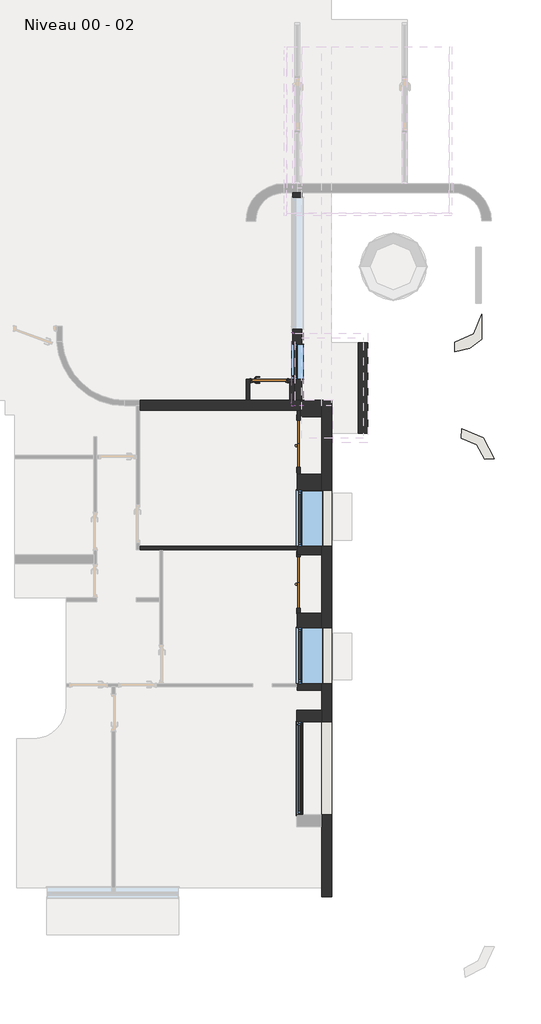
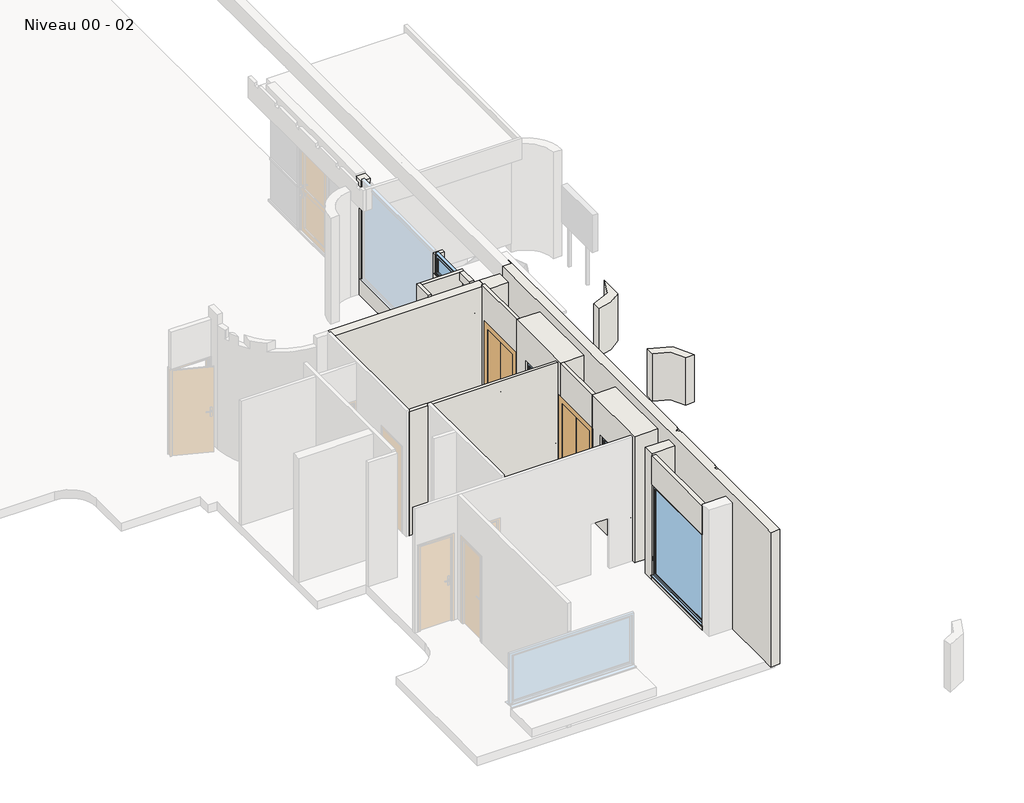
# One storey, part 2 of 6: 17 walls, 5 windows, 3 doors.
"""IFC4 building model written with IfcOpenShell, lengths in millimetres."""

from ifc_helpers import new_model, si_unit, point, frame, frame_2d, origin, place, context, project, spatial, polyline, circle_curve, trimmed, segment, composite_curve, outline, extrude, faceted_brep, transform, mapped, element, save
from ifc_brep_helpers import plane_surface, cylinder_surface, revolved_surface, advanced_brep
from components import door_0c80fb6a, door_98363a51, door_d65dadfb, window_120_x_125cm_d7c04d48, window_156_x_50cm_3dce97cc, window_200_x_220cm_37bbfe6a, window_75_x_180cm_aebe7c0e

model = new_model("IFC4")

# Units and contexts
model_context = context("Model", 3, world=origin())
ifc_project = project(units=[si_unit("LENGTHUNIT", "METRE", prefix="MILLI")], contexts=[model_context])

# Site, building, storey
site = spatial("IfcSite", under=ifc_project)
building = spatial("IfcBuilding", under=site)
storey = spatial("IfcBuildingStorey", under=building, Name="Niveau 00 - 02", Elevation=893.3082742)

# Doors
placement = place(None, origin())
door_shape = door_0c80fb6a(model_context)
element("IfcDoor", 1, ObjectType="Placard pliante : Placard pliante 100", at=placement, inside=storey, context=model_context, shape_type="MappedRepresentation", body=[
    mapped(door_shape, transform((2352.4682686, -11280.0184941, 893.3082742), x_axis=(0.0, -1.0, 0.0), y_axis=(1.0, 0.0, 0.0), z_axis=(0.0, 0.0, 1.0))),
])
door_2_shape = door_98363a51(model_context)
element("IfcDoor", 2, ObjectType="Placard pliante : Placard pliante 110", at=placement, inside=storey, context=model_context, shape_type="MappedRepresentation", body=[
    mapped(door_2_shape, transform((2352.4682686, -14258.8474044, 893.3082742), x_axis=(0.0, -1.0, 0.0), y_axis=(1.0, 0.0, 0.0), z_axis=(0.0, 0.0, 1.0))),
])
door_3_shape = door_d65dadfb(model_context)
element("IfcDoor", 3, ObjectType="@_Int. Simple : @_PP (0.73m x 2.04m)", at=placement, inside=storey, context=model_context, shape_type="MappedRepresentation", body=[
    mapped(door_3_shape, transform((1757.8283813, -9931.6335405, 893.3082742), x_axis=(1.0, 0.0, 0.0), y_axis=(0.0, 1.0, 0.0), z_axis=(0.0, 0.0, 1.0))),
])

# Walls
element("IfcWall", 4, ObjectType="Mur EXE 200- Hach", at=placement, inside=storey, context=model_context, shape_type="AdvancedBrep", body=[
    advanced_brep(
    [(6284.4653664, -8504.5791969, 1394.2517757), (5696.574774, -9104.4569856, 1394.2517757), (5698.4482838, -9304.4569856, 1394.2517757), (6284.4653664, -9033.7294588, 1394.2517757), (5696.574774, -9104.4569856, 258.5326836), (6284.4653664, -8504.5791969, 258.5326836), (6284.4653664, -9033.7294588, 258.5326836), (5698.4482838, -9304.4569856, 258.5326836), (5696.574774, -9104.4569856, 1349.0273663), (5698.4482838, -9304.4569856, 1349.0273663), (6284.4653664, -9033.7294588, 1349.0273663)],
    [
        (0, 1, circle_curve(frame((5684.4653671, -8504.5791969, 1394.2517757), z_axis=(0.0, 0.0, -1.0), x_axis=(1.0, 0.0, 0.0)), 599.9999993)),
        (1, 2),
        (2, 3, circle_curve(frame((5684.4653671, -8504.5791969, 1394.2517757), z_axis=(0.0, 0.0, 1.0), x_axis=(1.0, 0.0, 0.0)), 799.9999993)),
        (3, 0),
        (4, 5, circle_curve(frame((5684.4653671, -8504.5791969, 258.5326836), z_axis=(0.0, 0.0, 1.0), x_axis=(1.0, 0.0, 0.0)), 599.9999993)),
        (5, 6),
        (6, 7, circle_curve(frame((5684.4653671, -8504.5791969, 258.5326836), z_axis=(0.0, 0.0, -1.0), x_axis=(1.0, 0.0, 0.0)), 799.9999993)),
        (7, 4),
        (0, 5),
        (4, 8),
        (8, 1),
        (2, 9),
        (9, 7),
        (6, 10),
        (10, 3),
    ],
    [
        plane_surface(frame((6284.4653664, -8504.5791969, 1394.2517757), z_axis=(0.0, 0.0, 1.0), x_axis=(0.0, -1.0, 0.0))),
        plane_surface(frame((6284.4653664, -8504.5791969, 258.5326836), z_axis=(0.0, 0.0, -1.0), x_axis=(0.0, 1.0, 0.0))),
        revolved_surface(polyline([(6284.4653664, -8504.5791969, 258.5326836), (6284.4653664, -8504.5791969, 1394.2517757)]), (5684.4653671, -8504.5791969, 258.5326836), (0.0, 0.0, -1.0)),
        cylinder_surface(frame((5684.4653671, -8504.5791969, 258.5326836), z_axis=(0.0, 0.0, 1.0), x_axis=(1.0, 0.0, 0.0)), 799.9999993),
        plane_surface(frame((6284.4653664, -8527.2577579, 213.3082742), z_axis=(1.0, 0.0, 0.0), x_axis=(0.0, -1.0, 0.0))),
        plane_surface(frame((5696.574774, -9104.4569856, 893.3082742), z_axis=(-0.9999561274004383, -0.009367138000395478, 0.0), x_axis=(0.009367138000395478, -0.9999561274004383, 0.0))),
    ],
    [
        (0, [[1, 2, 3, 4]]),
        (1, [[5, 6, 7, 8]]),
        (2, [[-1, 9, -5, 10, 11]]),
        (3, [[-3, 12, 13, -7, 14, 15]]),
        (4, [[-4, -15, -14, -6, -9]]),
        (5, [[-2, -11, -10, -8, -13, -12]]),
    ],
),
])
element("IfcWall", 5, ObjectType="Mur EXE 200- Hach", at=placement, inside=storey, context=model_context, shape_type="SweptSolid", body=[
    extrude(outline(composite_curve([segment(polyline([(6544.2383271, -11602.541515), (6344.2383271, -11616.7908534)]), True, "CONTINUOUS"), segment(trimmed(circle_curve(frame_2d((5809.05904, -11700.0724652)), 541.6204356), [point((6344.2383271, -11616.7908534))], [point((5842.6775715, -11159.4963923))], True, "CARTESIAN"), True, "CONTINUOUS"), segment(polyline([(5842.6775715, -11159.4963923), (5848.4030451, -10959.4963923)]), True, "CONTINUOUS"), segment(trimmed(circle_curve(frame_2d((5809.05904, -11700.0724652)), 741.6204356), [point((5848.4030451, -10959.4963923))], [point((6544.2383271, -11602.541515))], False, "CARTESIAN"), True, "CONTINUOUS")], self_intersect=False)), frame((0.0, 0.0, 258.5326836), z_axis=(0.0, 0.0, 1.0), x_axis=(1.0, 0.0, 0.0)), (0.0, 0.0, 1.0), 1135.7190921),
])
element("IfcWall", 6, ObjectType="@_Générique - Int. 70 mm", at=placement, inside=storey, context=model_context, shape_type="Brep", body=[
    faceted_brep([(2317.4682686, -13482.9158895, 893.3082742), (-1057.6000149, -13482.9158895, 893.3082742), (-1057.6000149, -13482.9158895, 3871.8727639), (2317.4682686, -13482.9158895, 3871.8727639), (2317.4682686, -13482.9158895, 3143.3082742), (2317.4682686, -13482.9158895, 1893.3082742), (2317.4682686, -13552.9158895, 893.3082742), (2317.4682686, -13552.9158895, 3871.8727639), (-1057.6000149, -13552.9158895, 3871.8727639), (-1057.6000149, -13552.9158895, 893.3082742), (-632.6697111, -13552.9158895, 893.3082742), (-562.6697111, -13552.9158895, 893.3082742)], [[[0, 1, 2, 3, 4, 5]], [[6, 7, 8, 9, 10, 11]], [[1, 0, 6, 11, 10, 9]], [[2, 1, 9, 8]], [[3, 2, 8, 7]], [[0, 5, 4, 3, 7, 6]]]),
])
element("IfcWall", 7, ObjectType="Mur EXE 530- Hach 2 faces", at=placement, inside=storey, context=model_context, shape_type="Brep", body=[
    faceted_brep([(2847.4682686, -13665.2220011, 893.3082742), (2847.4682686, -11936.6335406, 893.3082742), (2847.4682686, -11936.6335406, 3921.8727639), (2847.4682686, -13665.2220011, 3921.8727639), (2847.4682686, -13482.9158895, 1893.3082742), (2847.4682686, -13482.9158895, 3143.3082742), (2847.4682686, -12282.9158895, 3143.3082742), (2847.4682686, -12282.9158895, 1893.3082742), (2317.4682686, -11936.6335406, 893.3082742), (2317.4682686, -13482.9158895, 893.3082742), (2317.4682686, -13552.9158895, 893.3082742), (2317.4682686, -13665.2220011, 893.3082742), (2317.4682686, -13665.2220011, 3921.8727639), (2317.4682686, -11936.6335406, 3921.8727639), (2317.4682686, -13482.9158895, 3143.3082742), (2317.4682686, -13482.9158895, 1893.3082742), (2317.4682686, -12282.9158895, 1893.3082742), (2317.4682686, -12282.9158895, 3143.3082742), (2387.4682686, -11936.6335406, 893.3082742), (2387.4682686, -11936.6335406, 3921.8727639)], [[[0, 1, 2, 3], [4, 5, 6, 7]], [[8, 9, 10, 11, 12, 13], [14, 15, 16, 17]], [[1, 0, 11, 10, 9, 8, 18]], [[2, 1, 18, 8, 13, 19]], [[3, 2, 19, 13, 12]], [[0, 3, 12, 11]], [[4, 15, 14, 5]], [[5, 14, 17, 6]], [[6, 17, 16, 7]], [[15, 4, 7, 16]]]),
])
element("IfcWall", 8, ObjectType="Mur EXE 530- Hach 2 faces", at=placement, inside=storey, context=model_context, shape_type="Brep", body=[
    faceted_brep([(2847.4682686, -16573.1651039, 893.3082742), (2847.4682686, -14915.2220011, 893.3082742), (2847.4682686, -14915.2220011, 3921.8727639), (2847.4682686, -16573.1651039, 3921.8727639), (2847.4682686, -16428.8474044, 1893.3082742), (2847.4682686, -16428.8474044, 3143.3082742), (2847.4682686, -15228.8474044, 3143.3082742), (2847.4682686, -15228.8474044, 1893.3082742), (2317.4682686, -14915.2220011, 893.3082742), (2317.4682686, -16428.8474044, 893.3082742), (2317.4682686, -16498.8474044, 893.3082742), (2317.4682686, -16573.1651039, 893.3082742), (2317.4682686, -16573.1651039, 3921.8727639), (2317.4682686, -14915.2220011, 3921.8727639), (2317.4682686, -16428.8474044, 3143.3082742), (2317.4682686, -16428.8474044, 1893.3082742), (2317.4682686, -15228.8474044, 1893.3082742), (2317.4682686, -15228.8474044, 3143.3082742), (2387.4682686, -14915.2220011, 893.3082742), (2387.4682686, -14915.2220011, 3921.8727639)], [[[0, 1, 2, 3], [4, 5, 6, 7]], [[8, 9, 10, 11, 12, 13], [14, 15, 16, 17]], [[1, 0, 11, 10, 9, 8, 18]], [[2, 1, 18, 8, 13, 19]], [[3, 2, 19, 13, 12]], [[0, 3, 12, 11]], [[4, 15, 14, 5]], [[5, 14, 17, 6]], [[6, 17, 16, 7]], [[15, 4, 7, 16]]]),
])
element("IfcWall", 9, ObjectType="@_Générique - Int. 70 mm", at=placement, inside=storey, context=model_context, shape_type="SweptSolid", body=[
    extrude(outline(polyline([(-13665.2220011, 3921.8727639), (-13665.2220011, 893.3082742), (-13708.8474044, 893.3082742), (-13708.8474044, 2993.3082742), (-14808.8474044, 2993.3082742), (-14808.8474044, 893.3082742), (-14915.2220011, 893.3082742), (-14915.2220011, 3921.8727639), (-13665.2220011, 3921.8727639)])), frame((2317.4682686, 0.0, 0.0), z_axis=(1.0, 0.0, 0.0), x_axis=(0.0, 1.0, 0.0)), (0.0, 0.0, 1.0), 70.0),
])
element("IfcWall", 10, ObjectType="@_Générique - Int. 70 mm", at=placement, inside=storey, context=model_context, shape_type="Brep", body=[
    faceted_brep([(2387.4682686, -10566.6335399, 893.3082742), (2387.4682686, -10566.6335399, 3871.8727639), (2387.4682686, -10566.6335399, 3921.8727639), (2387.4682686, -11936.6335406, 3921.8727639), (2387.4682686, -11936.6335406, 893.3082742), (2387.4682686, -11780.0184941, 893.3082742), (2387.4682686, -11780.0184941, 2993.3082742), (2387.4682686, -10780.0184941, 2993.3082742), (2387.4682686, -10780.0184941, 893.3082742), (2387.4682686, -10696.6335398, 893.3082742), (2317.4682686, -10566.6335399, 3921.8727639), (2317.4682686, -10566.6335399, 893.3082742), (2317.4682686, -10780.0184941, 893.3082742), (2317.4682686, -10780.0184941, 2993.3082742), (2317.4682686, -11780.0184941, 2993.3082742), (2317.4682686, -11780.0184941, 893.3082742), (2317.4682686, -11936.6335406, 893.3082742), (2317.4682686, -11936.6335406, 3921.8727639), (2382.3999851, -10566.6335399, 893.3082742)], [[[0, 1, 2, 3, 4, 5, 6, 7, 8, 9]], [[10, 11, 12, 13, 14, 15, 16, 17]], [[4, 16, 15, 5]], [[11, 18, 0, 9, 8, 12]], [[2, 1, 0, 18, 11, 10]], [[3, 2, 10, 17]], [[4, 3, 17, 16]], [[14, 6, 5, 15]], [[7, 13, 12, 8]], [[13, 7, 6, 14]]]),
])
element("IfcWall", 11, ObjectType="Mur EXE 200- Hach 2 faces", at=placement, inside=storey, context=model_context, shape_type="Brep", body=[
    faceted_brep([(2420.3283813, -10346.6335399, 893.3082742), (2420.3283813, -5899.6253835, 893.3082742), (2420.3283813, -5899.6253835, 3443.3082742), (2420.3283813, -5799.6253835, 3443.3082742), (2420.3283813, -5799.6253835, 3673.3082742), (2420.3283813, -5996.6335398, 3673.3082742), (2420.3283813, -5996.6335398, 1318.3082742), (2420.3283813, -8826.6335398, 1318.3082742), (2420.3283813, -8826.6335398, 3673.3082742), (2420.3283813, -8906.6335398, 3673.3082742), (2420.3283813, -8906.6335398, 3218.5326836), (2420.3283813, -10346.6335399, 3218.5326836), (2420.3283813, -9896.6335405, 1343.3082742), (2420.3283813, -9896.6335405, 3143.3082742), (2420.3283813, -9146.6335405, 3143.3082742), (2420.3283813, -9146.6335405, 1343.3082742), (2220.3283813, -8826.6335398, 3673.3082742), (2220.3283813, -8826.6335398, 1318.3082742), (2220.3283813, -5996.6335398, 1318.3082742), (2220.3283813, -5996.6335398, 3673.3082742), (2220.3283813, -5799.6253835, 3673.3082742), (2220.3283813, -5799.6253835, 3443.3082742), (2220.3283813, -5899.6253835, 3443.3082742), (2220.3283813, -5899.6253835, 893.3082742), (2220.3283813, -9966.6335405, 893.3082742), (2220.3283813, -9966.6335405, 3218.5326836), (2220.3283813, -8906.6335398, 3218.5326836), (2220.3283813, -8906.6335398, 3673.3082742), (2220.3283813, -9896.6335405, 3143.3082742), (2220.3283813, -9896.6335405, 1343.3082742), (2220.3283813, -9146.6335405, 1343.3082742), (2220.3283813, -9146.6335405, 3143.3082742), (2382.3999851, -10346.6335399, 893.3082742), (2257.4682705, -10346.6335399, 893.3082742), (2257.4682705, -9966.6335405, 893.3082742), (2320.3283813, -5899.6253835, 893.3082742), (2257.4682705, -9966.6335405, 3218.5326836), (2257.4682705, -10346.6335399, 3218.5326836), (2382.3999851, -10346.6335399, 3218.5326836)], [[[0, 1, 2, 3, 4, 5, 6, 7, 8, 9, 10, 11], [12, 13, 14, 15]], [[16, 17, 18, 19, 20, 21, 22, 23, 24, 25, 26, 27], [28, 29, 30, 31]], [[1, 0, 32, 33, 34, 24, 23, 35]], [[8, 7, 17, 16]], [[6, 5, 19, 18]], [[17, 7, 6, 18]], [[26, 10, 9, 27]], [[10, 26, 25, 36, 37, 38, 11]], [[12, 29, 28, 13]], [[13, 28, 31, 14]], [[30, 15, 14, 31]], [[29, 12, 15, 30]], [[4, 20, 19, 5]], [[27, 9, 8, 16]], [[20, 4, 3, 21]], [[21, 3, 2, 22]], [[1, 35, 23, 22, 2]], [[0, 11, 38, 37, 33, 32]], [[36, 34, 33, 37]], [[34, 36, 25, 24]]]),
])
element("IfcWall", 12, ObjectType="@_Générique - Int. 70 mm", at=placement, inside=storey, context=model_context, shape_type="Brep", body=[
    faceted_brep([(1300.3702255, -9896.6335405, 3921.8727639), (2257.4682705, -9896.6335405, 3921.8727639), (2257.4682705, -9896.6335405, 3718.5326836), (2220.3283813, -9896.6335405, 3718.5326836), (2220.3283813, -9896.6335405, 3218.5326836), (2257.4682705, -9896.6335405, 3218.5326836), (2257.4682705, -9896.6335405, 893.3082742), (2122.8283813, -9896.6335405, 893.3082742), (2122.8283813, -9896.6335405, 2968.3082742), (1322.8283813, -9896.6335405, 2968.3082742), (1322.8283813, -9896.6335405, 893.3082742), (1300.3702255, -9896.6335405, 893.3082742), (2257.4682705, -9966.6335405, 3921.8727639), (2157.4682705, -9966.6335405, 3921.8727639), (1300.3702255, -9966.6335405, 3921.8727639), (1300.3702255, -9966.6335405, 893.3082742), (1322.8283813, -9966.6335405, 893.3082742), (1322.8283813, -9966.6335405, 2968.3082742), (2122.8283813, -9966.6335405, 2968.3082742), (2122.8283813, -9966.6335405, 893.3082742), (2157.4682705, -9966.6335405, 893.3082742), (2257.4682705, -9966.6335405, 893.3082742), (2257.4682705, -9966.6335405, 3218.5326836), (2220.3283813, -9966.6335405, 3218.5326836), (2220.3283813, -9966.6335405, 3718.5326836), (2257.4682705, -9966.6335405, 3718.5326836)], [[[0, 1, 2, 3, 4, 5, 6, 7, 8, 9, 10, 11]], [[12, 13, 14, 15, 16, 17, 18, 19, 20, 21, 22, 23, 24, 25]], [[7, 6, 21, 20, 19]], [[10, 16, 15, 11]], [[1, 0, 14, 13, 12]], [[8, 7, 19, 18]], [[10, 9, 17, 16]], [[9, 8, 18, 17]], [[0, 11, 15, 14]], [[1, 12, 25, 2]], [[21, 6, 5, 22]], [[23, 4, 3, 24]], [[24, 3, 2, 25]], [[4, 23, 22, 5]]]),
])
element("IfcWall", 13, ObjectType="@_Générique - Int. 70 mm", at=placement, inside=storey, context=model_context, shape_type="Brep", body=[
    faceted_brep([(1230.3702255, -9896.6335405, 893.3082742), (1230.3702255, -10346.6335399, 893.3082742), (1230.3702255, -10346.6335399, 3921.8727639), (1230.3702255, -9896.6335405, 3921.8727639), (1300.3702255, -9896.6335405, 893.3082742), (1300.3702255, -9896.6335405, 3921.8727639), (1300.3702255, -9966.6335405, 3921.8727639), (1300.3702255, -10346.6335399, 3921.8727639), (1300.3702255, -10346.6335399, 893.3082742), (1300.3702255, -9966.6335405, 893.3082742)], [[[0, 1, 2, 3]], [[4, 5, 6, 7, 8, 9]], [[1, 0, 4, 9, 8]], [[3, 2, 7, 6, 5]], [[2, 1, 8, 7]], [[0, 3, 5, 4]]]),
])
element("IfcWall", 14, ObjectType="@_Générique - Int. 100 mm", at=placement, inside=storey, context=model_context, shape_type="SweptSolid", body=[
    extrude(outline(polyline([(2412.3999851, -17245.4746569), (2412.3999851, -19245.4746569), (2312.3999851, -19245.4746569), (2312.3999851, -17245.4746569), (2412.3999851, -17245.4746569)])), frame((0.0, 0.0, 893.3082742), z_axis=(0.0, 0.0, 1.0), x_axis=(1.0, 0.0, 0.0)), (0.0, 0.0, 1.0), 100.0),
    extrude(outline(polyline([(2412.3999851, -17245.4746569), (2412.3999851, -19245.4746569), (2312.3999851, -19245.4746569), (2312.3999851, -17245.4746569), (2412.3999851, -17245.4746569)])), frame((0.0, 0.0, 3193.3082742), z_axis=(0.0, 0.0, 1.0), x_axis=(1.0, 0.0, 0.0)), (0.0, 0.0, 1.0), 678.5644896),
])
element("IfcWall", 15, ObjectType="Mur EXE 5350- Hach 2 faces", at=placement, inside=storey, context=model_context, shape_type="Brep", body=[
    faceted_brep([(2847.3999851, -17245.4746569, 893.3082742), (2847.3999851, -16995.4746569, 893.3082742), (2847.3999851, -16995.4746569, 3921.8727639), (2847.3999851, -17245.4746569, 3921.8727639), (2847.3999851, -17245.4746569, 3193.3082742), (2847.3999851, -17245.4746569, 993.3082742), (2312.3999851, -17245.4746569, 893.3082742), (2312.3999851, -17245.4746569, 993.3082742), (2312.3999851, -17245.4746569, 3193.3082742), (2312.3999851, -17245.4746569, 3871.8727639), (2312.3999851, -17245.4746569, 3921.8727639), (2312.3999851, -16995.4746569, 3921.8727639), (2312.3999851, -16995.4746569, 893.3082742), (2412.3999851, -17245.4746569, 893.3082742)], [[[0, 1, 2, 3, 4, 5]], [[6, 7, 8, 9, 10, 11, 12]], [[1, 0, 13, 6, 12]], [[2, 1, 12, 11]], [[3, 2, 11, 10]], [[0, 5, 4, 3, 10, 9, 8, 7, 6, 13]]]),
])
element("IfcWall", 16, ObjectType="@_Générique - Int. 100 mm", at=placement, inside=storey, context=model_context, shape_type="Brep", body=[
    faceted_brep([(2157.4682705, -9966.6335405, 893.3082742), (2157.4682705, -10346.6335399, 893.3082742), (2157.4682705, -10346.6335399, 3218.5326836), (2157.4682705, -9966.6335405, 3218.5326836), (2257.4682705, -10346.6335399, 893.3082742), (2257.4682705, -9966.6335405, 893.3082742), (2257.4682705, -9966.6335405, 3218.5326836), (2257.4682705, -10346.6335399, 3218.5326836), (2220.3283813, -9966.6335405, 893.3082742), (2220.3283813, -10346.6335399, 3218.5326836), (2220.3283813, -9966.6335405, 3218.5326836)], [[[0, 1, 2, 3]], [[4, 5, 6, 7]], [[1, 0, 8, 5, 4]], [[1, 4, 7, 9, 2]], [[5, 8, 0, 3, 10, 6]], [[3, 2, 9, 7, 6, 10]]]),
    faceted_brep([(2157.4682705, -10346.6335399, 3921.8727639), (2157.4682705, -9966.6335405, 3921.8727639), (2157.4682705, -9966.6335405, 3718.5326836), (2157.4682705, -10346.6335399, 3718.5326836), (2257.4682705, -9966.6335405, 3921.8727639), (2257.4682705, -10346.6335399, 3921.8727639), (2257.4682705, -10346.6335399, 3718.5326836), (2257.4682705, -9966.6335405, 3718.5326836), (2220.3283813, -10346.6335399, 3718.5326836), (2220.3283813, -9966.6335405, 3718.5326836)], [[[0, 1, 2, 3]], [[4, 5, 6, 7]], [[1, 0, 5, 4]], [[5, 0, 3, 8, 6]], [[1, 4, 7, 9, 2]], [[3, 2, 9, 7, 6, 8]]]),
])
element("IfcWall", 17, ObjectType="Ext. Voile BA 210", at=placement, inside=storey, context=model_context, shape_type="AdvancedBrep", body=[
    advanced_brep(
    [(3057.4682686, -21006.2530701, 893.3082742), (3057.4682686, -10346.6335398, 893.3082742), (3057.4682686, -10346.6335398, 3673.0838649), (3057.4682686, -10346.6335398, 4121.8727639), (3057.4682686, -16966.372937, 4121.8727639), (3057.4682686, -16966.372937, 4113.3082742), (3057.4682686, -17166.372937, 4113.3082742), (3057.4682686, -17166.372937, 4121.8727639), (3057.4682686, -18466.372937, 4121.8727639), (3057.4682686, -18466.372937, 4113.3082742), (3057.4682686, -18666.372937, 4113.3082742), (3057.4682686, -18666.372937, 4121.8727639), (3057.4682686, -21006.2530701, 4121.8727639), (3057.4682686, -21006.2530701, 3673.0838649), (3057.4682686, -16428.8474044, 1893.3082742), (3057.4682686, -16428.8474044, 3143.3082742), (3057.4682686, -15229.0512733, 3143.3082742), (3057.4682686, -15228.8474044, 3143.3082742), (3057.4682686, -15228.8474044, 1893.3082742), (3057.4682686, -15229.0512733, 1893.3082742), (3057.4682686, -13482.9158895, 1893.3082742), (3057.4682686, -13482.9158895, 3143.3082742), (3057.4682686, -12282.9158895, 3143.3082742), (3057.4682686, -12282.9158895, 1893.3082742), (3057.4682686, -17245.4746569, 3193.3082742), (3057.4682686, -17245.4746569, 993.3082742), (3057.4682686, -19245.4746569, 993.3082742), (3057.4682686, -19245.4746569, 3193.3082742), (2847.4682686, -10346.6335398, 893.3082742), (2847.4682686, -10696.6335398, 893.3082742), (2847.4682686, -11936.6335406, 893.3082742), (2847.4682686, -13665.2220011, 893.3082742), (2847.4682686, -14915.2220011, 893.3082742), (2847.4682686, -16573.1651039, 893.3082742), (2847.4682686, -16995.4746569, 893.3082742), (2847.4682686, -17245.4746569, 893.3082742), (2847.4682686, -19245.4746569, 893.3082742), (2847.4682686, -19495.4746569, 893.3082742), (2847.4682686, -21006.2530701, 893.3082742), (2847.4682686, -21006.2530701, 4121.8727639), (2847.4682686, -20806.2530701, 4121.8727639), (2847.4682686, -10466.6335398, 4121.8727639), (2847.4682686, -10466.6335398, 3718.3082742), (2847.4682686, -10346.6335398, 3718.3082742), (2847.4682686, -16428.8474044, 3143.3082742), (2847.4682686, -16428.8474044, 1893.3082742), (2847.4682686, -15228.8474044, 1893.3082742), (2847.4682686, -15228.8474044, 3143.3082742), (2847.4682686, -13482.9158895, 3143.3082742), (2847.4682686, -13482.9158895, 1893.3082742), (2847.4682686, -12282.9158895, 1893.3082742), (2847.4682686, -12282.9158895, 3143.3082742), (2847.4682686, -17245.4746569, 993.3082742), (2847.4682686, -17245.4746569, 3193.3082742), (2847.4682686, -19245.4746569, 3193.3082742), (2847.4682686, -19245.4746569, 993.3082742), (2994.7645905, -17071.372937, 4113.3082742), (3002.2645905, -17078.872937, 4113.3082742), (3002.2645905, -17096.372937, 4113.3082742), (3022.4682686, -17096.372937, 4113.3082742), (3047.4682686, -17121.372937, 4113.3082742), (3047.4682686, -17166.372937, 4113.3082742), (3047.4682686, -16966.372937, 4113.3082742), (3047.4682686, -17011.372937, 4113.3082742), (3022.4682686, -17036.372937, 4113.3082742), (3002.2645905, -17036.372937, 4113.3082742), (3002.2645905, -17053.872937, 4113.3082742), (2994.7645905, -17061.372937, 4113.3082742), (2984.1139183, -17061.372937, 4113.3082742), (2984.1139183, -17071.372937, 4113.3082742), (2994.7645905, -17071.372937, 4121.8727639), (3002.2645905, -17078.872937, 4121.8727639), (3002.2645905, -17096.372937, 4121.8727639), (3022.4682686, -17096.372937, 4121.8727639), (3047.4682686, -17121.372937, 4121.8727639), (3047.4682686, -17166.372937, 4121.8727639), (3047.4682686, -16966.372937, 4121.8727639), (3047.4682686, -17011.372937, 4121.8727639), (3022.4682686, -17036.372937, 4121.8727639), (3002.2645905, -17036.372937, 4121.8727639), (3002.2645905, -17053.872937, 4121.8727639), (2994.7645905, -17061.372937, 4121.8727639), (2984.1139183, -17061.372937, 4121.8727639), (2984.1139183, -17071.372937, 4121.8727639), (2994.7645905, -18571.372937, 4113.3082742), (3002.2645905, -18578.872937, 4113.3082742), (3002.2645905, -18596.372937, 4113.3082742), (3022.4682686, -18596.372937, 4113.3082742), (3047.4682686, -18621.372937, 4113.3082742), (3047.4682686, -18666.372937, 4113.3082742), (3047.4682686, -18466.372937, 4113.3082742), (3047.4682686, -18511.372937, 4113.3082742), (3022.4682686, -18536.372937, 4113.3082742), (3002.2645905, -18536.372937, 4113.3082742), (3002.2645905, -18553.872937, 4113.3082742), (2994.7645905, -18561.372937, 4113.3082742), (2984.1139183, -18561.372937, 4113.3082742), (2984.1139183, -18571.372937, 4113.3082742), (2994.7645905, -18571.372937, 4121.8727639), (3002.2645905, -18578.872937, 4121.8727639), (3002.2645905, -18596.372937, 4121.8727639), (3022.4682686, -18596.372937, 4121.8727639), (3047.4682686, -18621.372937, 4121.8727639), (3047.4682686, -18666.372937, 4121.8727639), (3047.4682686, -18466.372937, 4121.8727639), (3047.4682686, -18511.372937, 4121.8727639), (3022.4682686, -18536.372937, 4121.8727639), (3002.2645905, -18536.372937, 4121.8727639), (3002.2645905, -18553.872937, 4121.8727639), (2994.7645905, -18561.372937, 4121.8727639), (2984.1139183, -18561.372937, 4121.8727639), (2984.1139183, -18571.372937, 4121.8727639), (3047.4682743, -10346.6335398, 3718.3082742), (3047.4682743, -10346.6335398, 4121.8727639), (3047.4682743, -10466.6335398, 3718.3082742), (3047.4682743, -10466.6335398, 4121.8727639)],
    [
        (0, 1),
        (1, 2),
        (2, 3),
        (3, 4),
        (4, 5),
        (5, 6),
        (6, 7),
        (7, 8),
        (8, 9),
        (9, 10),
        (10, 11),
        (11, 12),
        (12, 13),
        (13, 0),
        (14, 15),
        (15, 16),
        (16, 17),
        (17, 18),
        (18, 19),
        (19, 14),
        (20, 21),
        (21, 22),
        (22, 23),
        (23, 20),
        (24, 25),
        (25, 26),
        (26, 27),
        (27, 24),
        (28, 29),
        (29, 30),
        (30, 31),
        (31, 32),
        (32, 33),
        (33, 34),
        (34, 35),
        (35, 36),
        (36, 37),
        (37, 38),
        (38, 39),
        (39, 40),
        (40, 41),
        (41, 42),
        (42, 43),
        (43, 28),
        (44, 45),
        (45, 46),
        (46, 47),
        (47, 44),
        (48, 49),
        (49, 50),
        (50, 51),
        (51, 48),
        (52, 53),
        (53, 54),
        (54, 55),
        (55, 52),
        (56, 57, circle_curve(frame((2994.7645905, -17078.872937, 4113.3082742), z_axis=(0.0, 0.0, -1.0), x_axis=(0.0, 1.0, 0.0)), 7.5)),
        (57, 58),
        (58, 59),
        (59, 60, circle_curve(frame((3022.4682686, -17121.372937, 4113.3082742), z_axis=(0.0, 0.0, -1.0), x_axis=(0.0, 1.0, 0.0)), 25.0)),
        (60, 61),
        (61, 6),
        (5, 62),
        (62, 63),
        (63, 64, circle_curve(frame((3022.4682686, -17011.372937, 4113.3082742), z_axis=(0.0, 0.0, -1.0), x_axis=(0.0, 1.0, 0.0)), 25.0)),
        (64, 65),
        (65, 66),
        (66, 67, circle_curve(frame((2994.7645905, -17053.872937, 4113.3082742), z_axis=(0.0, 0.0, -1.0), x_axis=(0.0, 1.0, 0.0)), 7.5)),
        (67, 68),
        (68, 69),
        (69, 56),
        (56, 70),
        (70, 71, circle_curve(frame((2994.7645905, -17078.872937, 4121.8727639), z_axis=(0.0, 0.0, -1.0), x_axis=(0.0, 1.0, 0.0)), 7.5)),
        (71, 57),
        (71, 72),
        (72, 58),
        (72, 73),
        (73, 59),
        (73, 74, circle_curve(frame((3022.4682686, -17121.372937, 4121.8727639), z_axis=(0.0, 0.0, -1.0), x_axis=(0.0, 1.0, 0.0)), 25.0)),
        (74, 60),
        (74, 75),
        (75, 61),
        (75, 7),
        (4, 76),
        (76, 62),
        (76, 77),
        (77, 63),
        (77, 78, circle_curve(frame((3022.4682686, -17011.372937, 4121.8727639), z_axis=(0.0, 0.0, -1.0), x_axis=(0.0, 1.0, 0.0)), 25.0)),
        (78, 64),
        (78, 79),
        (79, 65),
        (79, 80),
        (80, 66),
        (80, 81, circle_curve(frame((2994.7645905, -17053.872937, 4121.8727639), z_axis=(0.0, 0.0, -1.0), x_axis=(0.0, 1.0, 0.0)), 7.5)),
        (81, 67),
        (81, 82),
        (82, 68),
        (82, 83),
        (83, 69),
        (83, 70),
        (84, 85, circle_curve(frame((2994.7645905, -18578.872937, 4113.3082742), z_axis=(0.0, 0.0, -1.0), x_axis=(0.0, 1.0, 0.0)), 7.5)),
        (85, 86),
        (86, 87),
        (87, 88, circle_curve(frame((3022.4682686, -18621.372937, 4113.3082742), z_axis=(0.0, 0.0, -1.0), x_axis=(0.0, 1.0, 0.0)), 25.0)),
        (88, 89),
        (89, 10),
        (9, 90),
        (90, 91),
        (91, 92, circle_curve(frame((3022.4682686, -18511.372937, 4113.3082742), z_axis=(0.0, 0.0, -1.0), x_axis=(0.0, 1.0, 0.0)), 25.0)),
        (92, 93),
        (93, 94),
        (94, 95, circle_curve(frame((2994.7645905, -18553.872937, 4113.3082742), z_axis=(0.0, 0.0, -1.0), x_axis=(0.0, 1.0, 0.0)), 7.5)),
        (95, 96),
        (96, 97),
        (97, 84),
        (84, 98),
        (98, 99, circle_curve(frame((2994.7645905, -18578.872937, 4121.8727639), z_axis=(0.0, 0.0, -1.0), x_axis=(0.0, 1.0, 0.0)), 7.5)),
        (99, 85),
        (99, 100),
        (100, 86),
        (100, 101),
        (101, 87),
        (101, 102, circle_curve(frame((3022.4682686, -18621.372937, 4121.8727639), z_axis=(0.0, 0.0, -1.0), x_axis=(0.0, 1.0, 0.0)), 25.0)),
        (102, 88),
        (102, 103),
        (103, 89),
        (103, 11),
        (8, 104),
        (104, 90),
        (104, 105),
        (105, 91),
        (105, 106, circle_curve(frame((3022.4682686, -18511.372937, 4121.8727639), z_axis=(0.0, 0.0, -1.0), x_axis=(0.0, 1.0, 0.0)), 25.0)),
        (106, 92),
        (106, 107),
        (107, 93),
        (107, 108),
        (108, 94),
        (108, 109, circle_curve(frame((2994.7645905, -18553.872937, 4121.8727639), z_axis=(0.0, 0.0, -1.0), x_axis=(0.0, 1.0, 0.0)), 7.5)),
        (109, 95),
        (109, 110),
        (110, 96),
        (110, 111),
        (111, 97),
        (111, 98),
        (1, 28),
        (43, 112),
        (112, 113),
        (113, 3),
        (114, 115),
        (115, 113),
        (112, 114),
        (42, 114),
        (41, 115),
        (14, 45),
        (44, 15),
        (47, 17),
        (46, 18),
        (20, 49),
        (48, 21),
        (51, 22),
        (50, 23),
        (0, 38),
        (39, 12),
        (52, 25),
        (24, 53),
        (27, 54),
        (26, 55),
    ],
    [
        plane_surface(frame((3057.4682686, -21006.2530701, 893.3082742), z_axis=(1.0, 0.0, 0.0), x_axis=(0.0, 1.0, 0.0))),
        plane_surface(frame((2847.4682686, -21006.2530701, 893.3082742), z_axis=(-1.0, 0.0, 0.0), x_axis=(0.0, -1.0, 0.0))),
        plane_surface(frame((2994.7645905, -17071.372937, 4113.3082742), z_axis=(0.0, 0.0, 1.0), x_axis=(-1.0, 0.0, 0.0))),
        cylinder_surface(frame((2994.7645905, -17078.872937, 4113.3082742), z_axis=(0.0, 0.0, -1.0), x_axis=(0.0, 1.0, 0.0)), 7.5),
        plane_surface(frame((3002.2645905, -17078.872937, 7363.3082742), z_axis=(1.0, 0.0, 0.0), x_axis=(0.0, 0.0, -1.0))),
        plane_surface(frame((3002.2645905, -17096.372937, 7363.3082742), z_axis=(0.0, 1.0, 0.0), x_axis=(0.0, 0.0, -1.0))),
        cylinder_surface(frame((3022.4682686, -17121.372937, 4113.3082742), z_axis=(0.0, 0.0, -1.0), x_axis=(0.0, 1.0, 0.0)), 25.0),
        plane_surface(frame((3047.4682686, -17121.372937, 7363.3082742), z_axis=(1.0, 0.0, 0.0), x_axis=(0.0, 0.0, -1.0))),
        plane_surface(frame((3047.4682686, -17166.372937, 7363.3082742), z_axis=(0.0, 1.0, 0.0), x_axis=(0.0, 0.0, -1.0))),
        plane_surface(frame((3057.4682686, -16966.372937, 7363.3082742), z_axis=(0.0, -1.0, 0.0), x_axis=(0.0, 0.0, -1.0))),
        plane_surface(frame((3047.4682686, -16966.372937, 7363.3082742), z_axis=(1.0, 0.0, 0.0), x_axis=(0.0, 0.0, -1.0))),
        cylinder_surface(frame((3022.4682686, -17011.372937, 4113.3082742), z_axis=(0.0, 0.0, -1.0), x_axis=(0.0, 1.0, 0.0)), 25.0),
        plane_surface(frame((3022.4682686, -17036.372937, 7363.3082742), z_axis=(0.0, -1.0, 0.0), x_axis=(0.0, 0.0, -1.0))),
        plane_surface(frame((3002.2645905, -17036.372937, 7363.3082742), z_axis=(1.0, 0.0, 0.0), x_axis=(0.0, 0.0, -1.0))),
        cylinder_surface(frame((2994.7645905, -17053.872937, 4113.3082742), z_axis=(0.0, 0.0, -1.0), x_axis=(0.0, 1.0, 0.0)), 7.5),
        plane_surface(frame((2994.7645905, -17061.372937, 7363.3082742), z_axis=(0.0, -1.0, 0.0), x_axis=(0.0, 0.0, -1.0))),
        plane_surface(frame((2984.1139183, -17061.372937, 7363.3082742), z_axis=(1.0, 0.0, 0.0), x_axis=(0.0, 0.0, -1.0))),
        plane_surface(frame((2984.1139183, -17071.372937, 7363.3082742), z_axis=(0.0, 1.0, 0.0), x_axis=(0.0, 0.0, -1.0))),
        plane_surface(frame((2994.7645905, -18571.372937, 4113.3082742), z_axis=(0.0, 0.0, 1.0), x_axis=(-1.0, 0.0, 0.0))),
        cylinder_surface(frame((2994.7645905, -18578.872937, 4113.3082742), z_axis=(0.0, 0.0, -1.0), x_axis=(0.0, 1.0, 0.0)), 7.5),
        plane_surface(frame((3002.2645905, -18578.872937, 7363.3082742), z_axis=(1.0, 0.0, 0.0), x_axis=(0.0, 0.0, -1.0))),
        plane_surface(frame((3002.2645905, -18596.372937, 7363.3082742), z_axis=(0.0, 1.0, 0.0), x_axis=(0.0, 0.0, -1.0))),
        cylinder_surface(frame((3022.4682686, -18621.372937, 4113.3082742), z_axis=(0.0, 0.0, -1.0), x_axis=(0.0, 1.0, 0.0)), 25.0),
        plane_surface(frame((3047.4682686, -18621.372937, 7363.3082742), z_axis=(1.0, 0.0, 0.0), x_axis=(0.0, 0.0, -1.0))),
        plane_surface(frame((3047.4682686, -18666.372937, 7363.3082742), z_axis=(0.0, 1.0, 0.0), x_axis=(0.0, 0.0, -1.0))),
        plane_surface(frame((3057.4682686, -18466.372937, 7363.3082742), z_axis=(0.0, -1.0, 0.0), x_axis=(0.0, 0.0, -1.0))),
        plane_surface(frame((3047.4682686, -18466.372937, 7363.3082742), z_axis=(1.0, 0.0, 0.0), x_axis=(0.0, 0.0, -1.0))),
        cylinder_surface(frame((3022.4682686, -18511.372937, 4113.3082742), z_axis=(0.0, 0.0, -1.0), x_axis=(0.0, 1.0, 0.0)), 25.0),
        plane_surface(frame((3022.4682686, -18536.372937, 7363.3082742), z_axis=(0.0, -1.0, 0.0), x_axis=(0.0, 0.0, -1.0))),
        plane_surface(frame((3002.2645905, -18536.372937, 7363.3082742), z_axis=(1.0, 0.0, 0.0), x_axis=(0.0, 0.0, -1.0))),
        cylinder_surface(frame((2994.7645905, -18553.872937, 4113.3082742), z_axis=(0.0, 0.0, -1.0), x_axis=(0.0, 1.0, 0.0)), 7.5),
        plane_surface(frame((2994.7645905, -18561.372937, 7363.3082742), z_axis=(0.0, -1.0, 0.0), x_axis=(0.0, 0.0, -1.0))),
        plane_surface(frame((2984.1139183, -18561.372937, 7363.3082742), z_axis=(1.0, 0.0, 0.0), x_axis=(0.0, 0.0, -1.0))),
        plane_surface(frame((2984.1139183, -18571.372937, 7363.3082742), z_axis=(0.0, 1.0, 0.0), x_axis=(0.0, 0.0, -1.0))),
        plane_surface(frame((2989.2176979, -10346.6335398, 893.3082742), z_axis=(0.0, 1.0, 0.0), x_axis=(-1.0, 0.0, 0.0))),
        plane_surface(frame((3047.4682745, -1586.0291627, 3718.3082742), z_axis=(-1.0, 1.968526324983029e-11, 0.0), x_axis=(1.968526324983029e-11, 1.0, 0.0))),
        plane_surface(frame((3047.4682743, -10466.6335398, 3718.3082742), z_axis=(0.0, 0.0, 1.0), x_axis=(-1.0, 1.968652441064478e-11, 0.0))),
        plane_surface(frame((3047.4682743, -10466.6335398, 4121.8727639), z_axis=(1.968652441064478e-11, 1.0, 0.0), x_axis=(-1.0, 1.968652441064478e-11, 0.0))),
        plane_surface(frame((3057.4682686, -16428.8474044, 1893.3082742), z_axis=(0.0, 1.0, 0.0), x_axis=(-1.0, 0.0, 0.0))),
        plane_surface(frame((3057.4682686, -16428.8474044, 3143.3082742), z_axis=(0.0, 0.0, -1.0), x_axis=(-1.0, 0.0, 0.0))),
        plane_surface(frame((3057.4682686, -15228.8474044, 3143.3082742), z_axis=(0.0, -1.0, 0.0), x_axis=(-1.0, 0.0, 0.0))),
        plane_surface(frame((3057.4682686, -15228.8474044, 1893.3082742), z_axis=(0.0, 0.0, 1.0), x_axis=(-1.0, 0.0, 0.0))),
        plane_surface(frame((3057.4682686, -13482.9158895, 1893.3082742), z_axis=(0.0, 1.0, 0.0), x_axis=(-1.0, 0.0, 0.0))),
        plane_surface(frame((3057.4682686, -13482.9158895, 3143.3082742), z_axis=(0.0, 0.0, -1.0), x_axis=(-1.0, 0.0, 0.0))),
        plane_surface(frame((3057.4682686, -12282.9158895, 3143.3082742), z_axis=(0.0, -1.0, 0.0), x_axis=(-1.0, 0.0, 0.0))),
        plane_surface(frame((3057.4682686, -12282.9158895, 1893.3082742), z_axis=(0.0, 0.0, 1.0), x_axis=(-1.0, 0.0, 0.0))),
        plane_surface(frame((3057.4682686, -21006.2530701, 893.3082742), z_axis=(0.0, 0.0, -1.0), x_axis=(-1.0, 0.0, 0.0))),
        plane_surface(frame((3057.4682686, -10521.6335398, 4121.8727639), z_axis=(0.0, 0.0, 1.0), x_axis=(-1.0, 0.0, 0.0))),
        plane_surface(frame((3057.4682686, -21006.2530701, 4121.8727639), z_axis=(0.0, -1.0, 0.0), x_axis=(-1.0, 0.0, 0.0))),
        plane_surface(frame((3836.3999851, -17245.4746569, 993.3082742), z_axis=(0.0, -1.0, 0.0), x_axis=(-1.0, 0.0, 0.0))),
        plane_surface(frame((3836.3999851, -17245.4746569, 3193.3082742), z_axis=(0.0, 0.0, -1.0), x_axis=(-1.0, 0.0, 0.0))),
        plane_surface(frame((3836.3999851, -19245.4746569, 3193.3082742), z_axis=(0.0, 1.0, 0.0), x_axis=(-1.0, 0.0, 0.0))),
        plane_surface(frame((3836.3999851, -19245.4746569, 993.3082742), z_axis=(0.0, 0.0, 1.0), x_axis=(-1.0, 0.0, 0.0))),
    ],
    [
        (0, [[1, 2, 3, 4, 5, 6, 7, 8, 9, 10, 11, 12, 13, 14], [15, 16, 17, 18, 19, 20], [21, 22, 23, 24], [25, 26, 27, 28]]),
        (1, [[29, 30, 31, 32, 33, 34, 35, 36, 37, 38, 39, 40, 41, 42, 43, 44], [45, 46, 47, 48], [49, 50, 51, 52], [53, 54, 55, 56]]),
        (2, [[57, 58, 59, 60, 61, 62, -6, 63, 64, 65, 66, 67, 68, 69, 70, 71]]),
        (3, [[-57, 72, 73, 74]]),
        (4, [[-58, -74, 75, 76]]),
        (5, [[-59, -76, 77, 78]]),
        (6, [[-60, -78, 79, 80]]),
        (7, [[-61, -80, 81, 82]]),
        (8, [[-62, -82, 83, -7]]),
        (9, [[-63, -5, 84, 85]]),
        (10, [[-64, -85, 86, 87]]),
        (11, [[-65, -87, 88, 89]]),
        (12, [[-66, -89, 90, 91]]),
        (13, [[-67, -91, 92, 93]]),
        (14, [[-68, -93, 94, 95]]),
        (15, [[-69, -95, 96, 97]]),
        (16, [[-70, -97, 98, 99]]),
        (17, [[-71, -99, 100, -72]]),
        (18, [[101, 102, 103, 104, 105, 106, -10, 107, 108, 109, 110, 111, 112, 113, 114, 115]]),
        (19, [[-101, 116, 117, 118]]),
        (20, [[-102, -118, 119, 120]]),
        (21, [[-103, -120, 121, 122]]),
        (22, [[-104, -122, 123, 124]]),
        (23, [[-105, -124, 125, 126]]),
        (24, [[-106, -126, 127, -11]]),
        (25, [[-107, -9, 128, 129]]),
        (26, [[-108, -129, 130, 131]]),
        (27, [[-109, -131, 132, 133]]),
        (28, [[-110, -133, 134, 135]]),
        (29, [[-111, -135, 136, 137]]),
        (30, [[-112, -137, 138, 139]]),
        (31, [[-113, -139, 140, 141]]),
        (32, [[-114, -141, 142, 143]]),
        (33, [[-115, -143, 144, -116]]),
        (34, [[-3, -2, 145, -44, 146, 147, 148]]),
        (35, [[149, 150, -147, 151]]),
        (36, [[152, -151, -146, -43]]),
        (37, [[-149, -152, -42, 153]]),
        (38, [[-15, 154, -45, 155]]),
        (39, [[-17, -16, -155, -48, 156]]),
        (40, [[-18, -156, -47, 157]]),
        (41, [[-20, -19, -157, -46, -154]]),
        (42, [[-21, 158, -49, 159]]),
        (43, [[-22, -159, -52, 160]]),
        (44, [[-23, -160, -51, 161]]),
        (45, [[-24, -161, -50, -158]]),
        (46, [[-1, 162, -38, -37, -36, -35, -34, -33, -32, -31, -30, -29, -145]]),
        (47, [[-4, -148, -150, -153, -41, -40, 163, -12, -127, -125, -123, -121, -119, -117, -144, -142, -140, -138, -136, -134, -132, -130, -128, -8, -83, -81, -79, -77, -75, -73, -100, -98, -96, -94, -92, -90, -88, -86, -84]]),
        (48, [[-14, -13, -163, -39, -162]]),
        (49, [[164, -25, 165, -53]]),
        (50, [[-165, -28, 166, -54]]),
        (51, [[-166, -27, 167, -55]]),
        (52, [[-164, -56, -167, -26]]),
    ],
),
])
element("IfcWall", 18, ObjectType="Ext. Voile BA 220", at=placement, inside=storey, context=model_context, shape_type="Brep", body=[
    faceted_brep([(-1057.6000149, -10566.6335399, 3871.8727639), (-1057.6000149, -10566.6335399, 893.3082742), (2317.4682686, -10566.6335399, 893.3082742), (2382.3999851, -10566.6335399, 893.3082742), (2382.3999851, -10566.6335399, 3871.8727639), (-1057.6000149, -10346.6335399, 893.3082742), (-1057.6000149, -10346.6335399, 3871.8727639), (2382.3999851, -10346.6335399, 3871.8727639), (2382.3999851, -10346.6335399, 3718.5326836), (2257.4682705, -10346.6335399, 3718.5326836), (2220.3283813, -10346.6335399, 3718.5326836), (2220.3283813, -10346.6335399, 3218.5326836), (2257.4682705, -10346.6335399, 3218.5326836), (2382.3999851, -10346.6335399, 3218.5326836), (2382.3999851, -10346.6335399, 893.3082742), (2257.4682705, -10346.6335399, 893.3082742), (2157.4682705, -10346.6335399, 893.3082742), (1300.3702255, -10346.6335399, 893.3082742), (1230.3702255, -10346.6335399, 893.3082742), (2220.3283813, -10466.6335398, 3718.5326836), (2220.3283813, -10466.6335398, 3218.5326836), (2382.3999851, -10466.6335398, 3718.5326836), (2382.3999851, -10466.6335398, 3218.5326836)], [[[0, 1, 2, 3, 4]], [[5, 6, 7, 8, 9, 10, 11, 12, 13, 14, 15, 16, 17, 18]], [[1, 5, 18, 17, 16, 15, 14, 3, 2]], [[1, 0, 6, 5]], [[6, 0, 4, 7]], [[19, 20, 11, 10]], [[20, 19, 21, 22]], [[19, 10, 9, 8, 21]], [[11, 20, 22, 13, 12]], [[4, 3, 14, 13, 22, 21, 8, 7]]]),
])
element("IfcWall", 19, ObjectType="Ext. Voile BA 350", at=placement, inside=storey, context=model_context, shape_type="Brep", body=[
    faceted_brep([(2847.4682686, -10696.6335398, 893.3082742), (2847.4682686, -10696.6335398, 3871.8727639), (2387.4682686, -10696.6335398, 3871.8727639), (2387.4682686, -10696.6335398, 893.3082742), (2847.4682686, -10346.6335398, 893.3082742), (2420.3283813, -10346.6335398, 893.3082742), (2382.3999851, -10346.6335398, 893.3082742), (2382.3999851, -10346.6335398, 3218.5326836), (2420.3283813, -10346.6335398, 3218.5326836), (2420.3283813, -10346.6335398, 3718.5326836), (2382.3999851, -10346.6335398, 3718.5326836), (2382.3999851, -10346.6335398, 3871.8727639), (2847.4682683, -10346.6335398, 3871.8727639), (2847.4682683, -10346.6335398, 3718.3082742), (2387.4682686, -10566.6335399, 893.3082742), (2382.3999851, -10566.6335399, 893.3082742), (2382.3999851, -10466.6335398, 3718.5326836), (2382.3999851, -10466.6335398, 3218.5326836), (2382.3999851, -10566.6335399, 3871.8727639), (2387.4682686, -10566.6335399, 3871.8727639), (2420.3283813, -10466.6335398, 3218.5326836), (2420.3283813, -10466.6335398, 3718.5326836)], [[[0, 1, 2, 3]], [[4, 5, 6, 7, 8, 9, 10, 11, 12, 13]], [[6, 5, 4, 0, 3, 14, 15]], [[11, 10, 16, 17, 7, 6, 15, 18]], [[1, 0, 4, 13, 12]], [[1, 12, 11, 18, 19, 2]], [[20, 21, 9, 8]], [[21, 20, 17, 16]], [[9, 21, 16, 10]], [[20, 8, 7, 17]], [[19, 14, 3, 2]], [[14, 19, 18, 15]]]),
])
element("IfcWall", 20, ObjectType="Mur 100- isolation 100 - enduit", at=placement, inside=storey, context=model_context, shape_type="Brep", body=[
    faceted_brep([(3834.7471372, -11059.4963923, 893.3082742), (3834.7471372, -10959.4963923, 893.3082742), (3834.7471372, -9304.4569856, 893.3082742), (3834.7471372, -9108.9802873, 893.3082742), (3834.7471372, -9108.9802873, 3143.3082742), (3834.7471372, -11059.4963923, 3143.3082742), (3634.7471372, -9108.9802873, 893.3082742), (3634.7471372, -11059.4963923, 893.3082742), (3634.7471372, -11059.4963923, 2993.3082742), (3634.7471372, -9108.9802873, 2993.3082742), (3734.7471372, -9108.9802873, 893.3082742), (3734.7471372, -11059.4963923, 3143.3082742), (3734.7471372, -11059.4963923, 2993.3082742), (3734.7471372, -9108.9802873, 2993.3082742), (3734.7471372, -9108.9802873, 3143.3082742)], [[[0, 1, 2, 3, 4, 5]], [[6, 7, 8, 9]], [[3, 2, 1, 0, 7, 6, 10]], [[7, 0, 5, 11, 12, 8]], [[3, 10, 6, 9, 13, 14, 4]], [[12, 13, 9, 8]], [[13, 12, 11, 14]], [[5, 4, 14, 11]]]),
])

# Windows
window_120_x_125cm_shape = window_120_x_125cm_d7c04d48(model_context)
element("IfcWindow", 21, ObjectType="Fenêtre type 1 : 120 x 125cm", at=placement, inside=storey, context=model_context, shape_type="MappedRepresentation", body=[
    mapped(window_120_x_125cm_shape, transform((2582.4682686, -12882.9158895, 1093.3082742), x_axis=(0.0, 1.0, 0.0), y_axis=(-1.0, 0.0, 0.0), z_axis=(0.0, 0.0, 1.0))),
])
element("IfcWindow", 22, ObjectType="Fenêtre type 1 : 120 x 125cm", at=placement, inside=storey, context=model_context, shape_type="MappedRepresentation", body=[
    mapped(window_120_x_125cm_shape, transform((2582.4682686, -15828.8474044, 1093.3082742), x_axis=(0.0, 1.0, 0.0), y_axis=(-1.0, 0.0, 0.0), z_axis=(0.0, 0.0, 1.0))),
])
window_156_x_50cm_shape = window_156_x_50cm_3dce97cc(model_context)
element("IfcWindow", 23, ObjectType="Fenêtre type 1 : 156 x 50cm", at=placement, inside=storey, context=model_context, shape_type="MappedRepresentation", body=[
    mapped(window_156_x_50cm_shape, transform((2320.3283813, -9686.6335398, 2418.5326836), x_axis=(0.0, 1.0, 0.0), y_axis=(-1.0, 0.0, 0.0), z_axis=(0.0, 0.0, 1.0))),
])
window_200_x_220cm_shape = window_200_x_220cm_37bbfe6a(model_context)
element("IfcWindow", 24, ObjectType="Fenêtre type 1 : 200 x 220cm", at=placement, inside=storey, context=model_context, shape_type="MappedRepresentation", body=[
    mapped(window_200_x_220cm_shape, transform((2362.3999851, -18245.4746569, 193.3082742), x_axis=(0.0, -1.0, 0.0), y_axis=(1.0, 0.0, 0.0), z_axis=(0.0, 0.0, 1.0))),
])
window_75_x_180cm_shape = window_75_x_180cm_aebe7c0e(model_context)
element("IfcWindow", 25, ObjectType="Fenêtre type 1 : 75 x 180cm", at=placement, inside=storey, context=model_context, shape_type="MappedRepresentation", body=[
    mapped(window_75_x_180cm_shape, transform((2320.3283813, -9521.6335405, 543.3082742), x_axis=(0.0, 1.0, 0.0), y_axis=(-1.0, 0.0, 0.0), z_axis=(0.0, 0.0, 1.0))),
])

save(model, "model.ifc")
